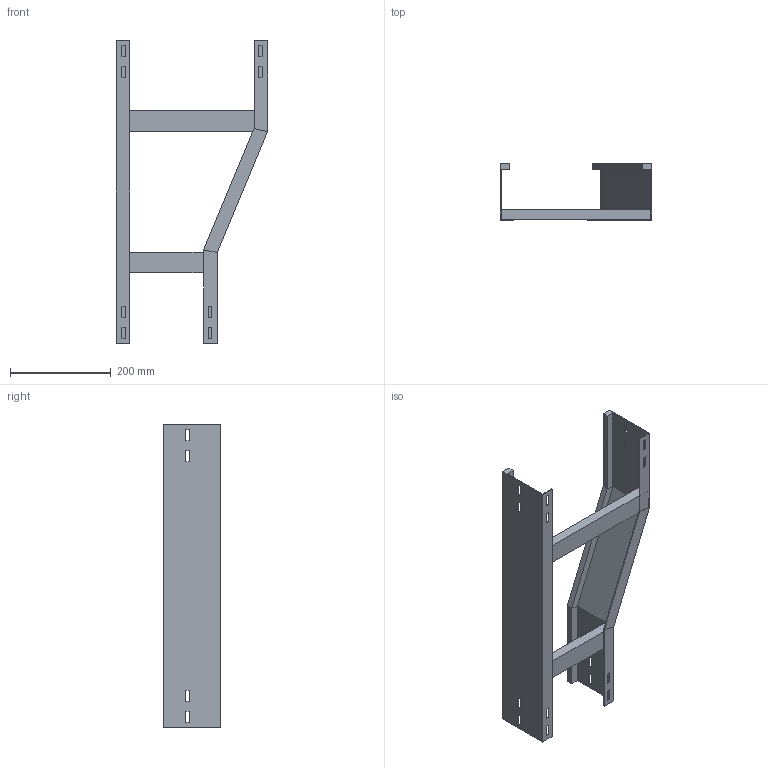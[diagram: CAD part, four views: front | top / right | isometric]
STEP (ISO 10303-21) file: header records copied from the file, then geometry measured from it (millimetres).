
FILE_DESCRIPTION (( 'STEP AP214' ), '1' );
FILE_NAME ('B2X22B2J300XX.step', '2025-09-02T17:18:45', ( '' ), ( '' ), 'SwSTEP 2.0', 'SolidWorks 2023', '' );
FILE_SCHEMA (( 'AUTOMOTIVE_DESIGN' ));
Length unit declared in the file: millimetre
Products named in the file (5): B2X22B2J300XX; TRAVERSINO_300; TRAVERSINO_200; SPONDA DRITTA_H112.5; SPONDA RID. SX 300-200_H112.5
Assembly tree (4 placements, depth 2):
  B2X22B2J300XX
    SPONDA DRITTA_H112.5
    TRAVERSINO_200
    TRAVERSINO_300
    SPONDA RID. SX 300-200_H112.5
Bounding box: 300 x 112.5 x 600 mm (x, y, z)
Volume: 963332 mm3; surface area: 440988 mm2
Topology: 4 solids, 4 shells, 112 faces, 296 edges, 192 vertices
Faces by surface type: plane 112
Entity records: 3590 total; most frequent: CARTESIAN_POINT 607, ORIENTED_EDGE 592, DIRECTION 534, EDGE_CURVE 296, LINE 296, VECTOR 296, VERTEX_POINT 192, EDGE_LOOP 144
